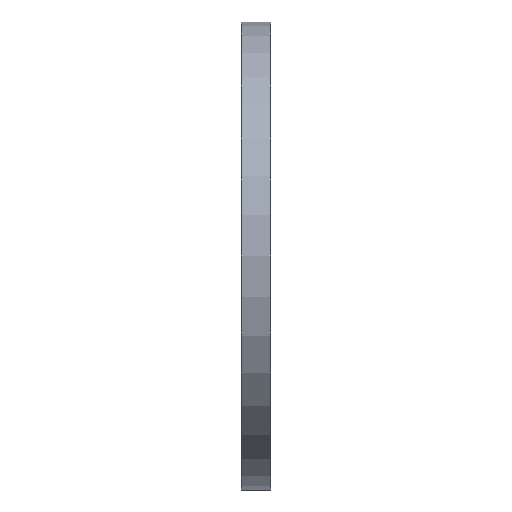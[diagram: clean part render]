
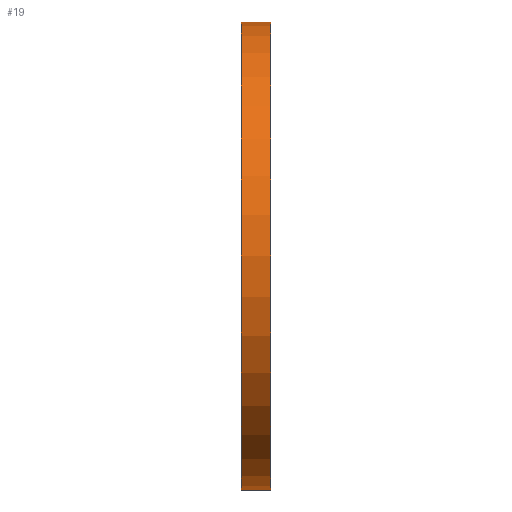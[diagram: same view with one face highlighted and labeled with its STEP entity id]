
A CAD part, left-side view. The second image highlights one B-rep face of the part: STEP entity #19.
In plain terms, the highlighted cylindrical face has radius 48 mm (diameter 96 mm), a partial arc.
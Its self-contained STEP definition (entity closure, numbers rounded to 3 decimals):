
#13 = EDGE_CURVE ( 'NONE', #789, #929, #1069, .T. ) ;
#19 = ADVANCED_FACE ( 'NONE', ( #298 ), #1614, .T. ) ;
#76 = DIRECTION ( 'NONE',  ( 0., 1., 0. ) ) ;
#84 = CARTESIAN_POINT ( 'NONE',  ( 0., 6., 0. ) ) ;
#175 = ORIENTED_EDGE ( 'NONE', *, *, #1363, .T. ) ;
#242 = CIRCLE ( 'NONE', #1186, 48. ) ;
#262 = DIRECTION ( 'NONE',  ( 0., -1., 0. ) ) ;
#289 = DIRECTION ( 'NONE',  ( 0., -1., 0. ) ) ;
#298 = FACE_OUTER_BOUND ( 'NONE', #400, .T. ) ;
#365 = LINE ( 'NONE', #1854, #585 ) ;
#372 = VERTEX_POINT ( 'NONE', #1233 ) ;
#400 = EDGE_LOOP ( 'NONE', ( #1543, #910, #568, #175 ) ) ;
#434 = CARTESIAN_POINT ( 'NONE',  ( 0., 0., 0. ) ) ;
#447 = CARTESIAN_POINT ( 'NONE',  ( 0., 6., 48. ) ) ;
#562 = LINE ( 'NONE', #949, #1413 ) ;
#568 = ORIENTED_EDGE ( 'NONE', *, *, #974, .T. ) ;
#576 = DIRECTION ( 'NONE',  ( 0., 0., 1. ) ) ;
#577 = AXIS2_PLACEMENT_3D ( 'NONE', #84, #76, #1955 ) ;
#585 = VECTOR ( 'NONE', #289, 1000. ) ;
#789 = VERTEX_POINT ( 'NONE', #1825 ) ;
#910 = ORIENTED_EDGE ( 'NONE', *, *, #13, .F. ) ;
#912 = EDGE_CURVE ( 'NONE', #929, #372, #365, .T. ) ;
#929 = VERTEX_POINT ( 'NONE', #447 ) ;
#949 = CARTESIAN_POINT ( 'NONE',  ( 0., 6., -48. ) ) ;
#974 = EDGE_CURVE ( 'NONE', #789, #1940, #562, .T. ) ;
#1069 = CIRCLE ( 'NONE', #577, 48. ) ;
#1177 = DIRECTION ( 'NONE',  ( 0., 0., -1. ) ) ;
#1186 = AXIS2_PLACEMENT_3D ( 'NONE', #434, #1975, #576 ) ;
#1233 = CARTESIAN_POINT ( 'NONE',  ( 0., 0., 48. ) ) ;
#1344 = CARTESIAN_POINT ( 'NONE',  ( 0., 6., 0. ) ) ;
#1363 = EDGE_CURVE ( 'NONE', #1940, #372, #242, .T. ) ;
#1413 = VECTOR ( 'NONE', #1570, 1000. ) ;
#1543 = ORIENTED_EDGE ( 'NONE', *, *, #912, .F. ) ;
#1570 = DIRECTION ( 'NONE',  ( 0., -1., 0. ) ) ;
#1614 = CYLINDRICAL_SURFACE ( 'NONE', #1873, 48. ) ;
#1706 = CARTESIAN_POINT ( 'NONE',  ( 0., 0., -48. ) ) ;
#1825 = CARTESIAN_POINT ( 'NONE',  ( 0., 6., -48. ) ) ;
#1854 = CARTESIAN_POINT ( 'NONE',  ( 0., 6., 48. ) ) ;
#1873 = AXIS2_PLACEMENT_3D ( 'NONE', #1344, #262, #1177 ) ;
#1940 = VERTEX_POINT ( 'NONE', #1706 ) ;
#1955 = DIRECTION ( 'NONE',  ( 0., 0., 1. ) ) ;
#1975 = DIRECTION ( 'NONE',  ( 0., 1., 0. ) ) ;
